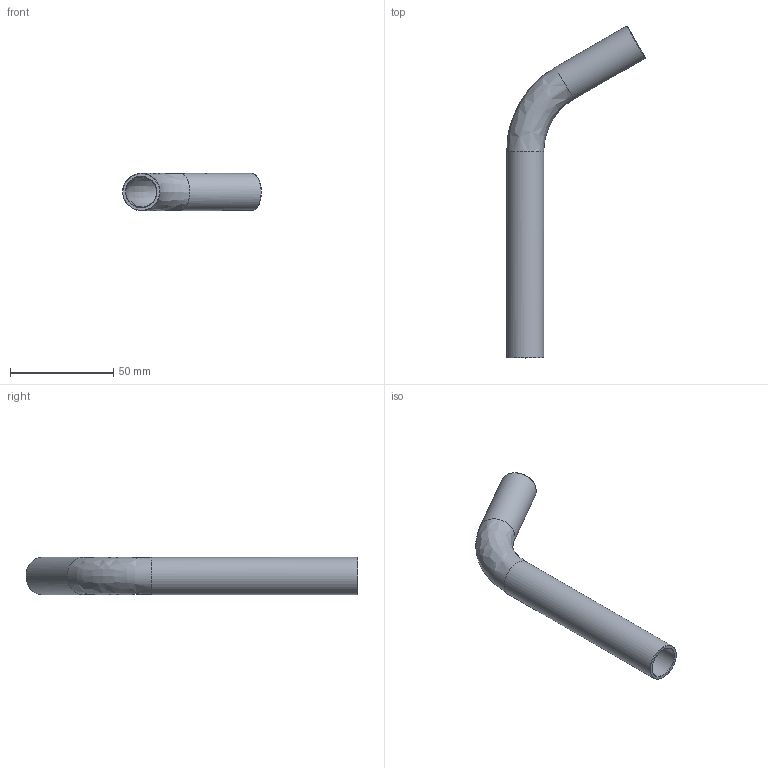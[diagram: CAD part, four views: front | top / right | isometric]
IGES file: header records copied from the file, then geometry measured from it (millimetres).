
Global section: file name: C72AD; native system: Autodesk Inventor 2023; preprocessor: unknown; author: lvalentini; date: 20230921.121016; units: millimetre
Bounding box: 67.13 x 160.69 x 18 mm (x, y, z)
Volume: 14061 mm3; surface area: 18814 mm2
Topology: 1 solids, 1 shells, 12 faces, 26 edges, 16 vertices
Faces by surface type: bspline 12
